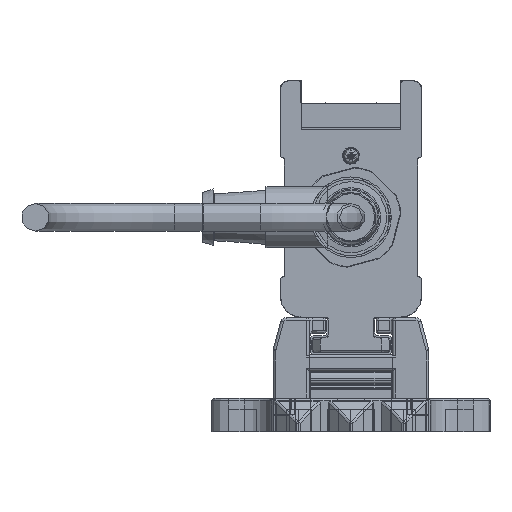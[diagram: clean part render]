
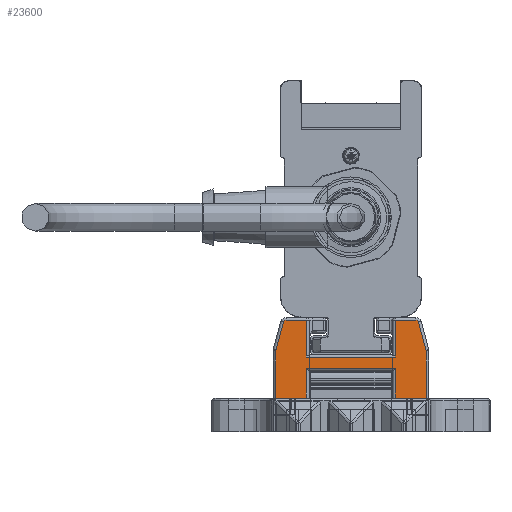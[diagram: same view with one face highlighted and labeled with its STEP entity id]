
A CAD part, left-side view. The second image highlights one B-rep face of the part: STEP entity #23600.
In plain terms, the highlighted planar face has unit normal (-1, 0, 0).
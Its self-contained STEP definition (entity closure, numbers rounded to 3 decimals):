
#23600=ADVANCED_FACE('', (#23610), #23620, .T.);
#189050=AXIS2_PLACEMENT_3D('Ax2Pl3d', #189060, #189070, #189080);
#189290=AXIS2_PLACEMENT_3D('Ax2Pl3d', #189300, #189310, #189320);
#194170=AXIS2_PLACEMENT_3D('Ax2Pl3d', #194180, #194190, #194200);
#199250=AXIS2_PLACEMENT_3D('Ax2Pl3d', #199260, #199270, #199280);
#208930=AXIS2_PLACEMENT_3D('Ax2Pl3d', #208940, #208950, #208960);
#844600=CARTESIAN_POINT('', (-747.669,-5446.345,
331.37));
#189060=CARTESIAN_POINT('HicPkt', (-747.669,-5445.379,
331.111));
#844610=CARTESIAN_POINT('', (-747.669,-5446.379,331.111)
);
#844620=CARTESIAN_POINT('', (-747.669,-5445.037,
336.255));
#844640=CARTESIAN_POINT('', (-747.669,-5445.037,
336.255));
#844670=CARTESIAN_POINT('', (-747.669,-5444.554,
336.625));
#189300=CARTESIAN_POINT('HicPkt', (-747.669,-5444.554,
336.125));
#844890=CARTESIAN_POINT('', (-747.669,-5446.379,322.625)
);
#844900=CARTESIAN_POINT('', (-747.669,-5440.881,322.625)
);
#844910=CARTESIAN_POINT('', (-747.669,-5440.881,322.625)
);
#844990=CARTESIAN_POINT('', (-747.669,-5424.881,322.625)
);
#845000=CARTESIAN_POINT('', (-747.669,-5419.383,322.625)
);
#845010=CARTESIAN_POINT('', (-747.669,-5419.383,322.625)
);
#194180=CARTESIAN_POINT('HicPkt', (-747.669,-5421.209,
336.125));
#847480=CARTESIAN_POINT('', (-747.669,-5420.726,
336.255));
#847490=CARTESIAN_POINT('', (-747.669,-5421.209,
336.625));
#847500=CARTESIAN_POINT('', (-747.669,-5440.881,
330.025));
#847510=CARTESIAN_POINT('', (-747.669,-5424.881,
330.025));
#847520=CARTESIAN_POINT('', (-747.669,-5440.881,
330.025));
#847680=CARTESIAN_POINT('', (-747.669,-5440.881,
328.005));
#847690=CARTESIAN_POINT('', (-747.669,-5424.881,
328.005));
#847700=CARTESIAN_POINT('', (-747.669,-5424.881,
328.005));
#847710=CARTESIAN_POINT('', (-747.669,-5440.881,
328.005));
#847730=CARTESIAN_POINT('', (-747.669,-5424.881,322.625)
);
#847740=CARTESIAN_POINT('', (-747.669,-5424.881,
330.025));
#847750=CARTESIAN_POINT('', (-747.669,-5424.881,
336.625));
#848600=CARTESIAN_POINT('', (-747.669,-5424.881,
336.625));
#848610=CARTESIAN_POINT('', (-747.669,-5420.726,
336.255));
#848620=CARTESIAN_POINT('', (-747.669,-5419.417,
331.37));
#848810=CARTESIAN_POINT('', (-747.669,-5419.383,331.111)
);
#848820=CARTESIAN_POINT('', (-747.669,-5419.383,331.111)
);
#199260=CARTESIAN_POINT('HicPkt', (-747.669,-5420.383,
331.111));
#849630=CARTESIAN_POINT('', (-747.669,-5446.379,331.111)
);
#208940=CARTESIAN_POINT('HicPkt', (-747.669,-5444.554,
336.625));
#851430=CARTESIAN_POINT('', (-747.669,-5440.881,
336.625));
#851440=CARTESIAN_POINT('', (-747.669,-5440.881,
336.625));
#851450=CARTESIAN_POINT('', (-747.669,-5440.881,
336.625));
#981330=CIRCLE('Circle', #189050, 1.);
#981370=CIRCLE('Circle', #189290, 0.5);
#981950=CIRCLE('Circle', #194170, 0.5);
#982480=CIRCLE('Circle', #199250, 1.);
#189070=DIRECTION('Axis', (-1.,0.,
0.));
#189080=DIRECTION('RefDirection', (0.,
0.,-1.));
#1367870=DIRECTION('', (0.,0.259,
0.966));
#189310=DIRECTION('Axis', (-1.,0.,
0.));
#189320=DIRECTION('RefDirection', (0.,
0.,-1.));
#1367980=DIRECTION('', (0.,1.,0.));
#1368020=DIRECTION('', (0.,1.,0.));
#194190=DIRECTION('Axis', (1.,0.,
0.));
#194200=DIRECTION('RefDirection', (0.,
0.,-1.));
#1369210=DIRECTION('', (0.,-1.,0.));
#1369310=DIRECTION('', (0.,1.,0.));
#1369320=DIRECTION('', (0.,0.,1.));
#1369340=DIRECTION('', (0.,0.,-1.));
#1369350=DIRECTION('', (0.,0.,-1.));
#1369780=DIRECTION('', (0.,-1.,0.))
;
#1369790=DIRECTION('', (0.,-0.259,0.966));
#1369880=DIRECTION('', (0.,0.,1.));
#199270=DIRECTION('Axis', (1.,0.,
0.));
#199280=DIRECTION('RefDirection', (0.,
0.,-1.));
#1370250=DIRECTION('', (0.,0.,1.));
#208950=DIRECTION('Axis', (-1.,0.,
0.));
#208960=DIRECTION('RefDirection', (0.,
0.,-1.));
#1371090=DIRECTION('', (0.,1.,0.));
#1371100=DIRECTION('', (0.,0.,1.));
#1456860=EDGE_CURVE('', #1456870, #1456850, #981330, .T.);
#1456920=EDGE_CURVE('', #1456850, #1456900, #1456930, .T.);
#1456990=EDGE_CURVE('', #1456900, #1456980, #981370, .T.);
#1457440=EDGE_CURVE('', #1457430, #1457450, #1457460, .T.);
#1457600=EDGE_CURVE('', #1457590, #1457610, #1457620, .T.);
#1461960=EDGE_CURVE('', #1461970, #1461980, #981950, .T.);
#1462010=EDGE_CURVE('', #1462020, #1462030, #1462040, .T.);
#1462380=EDGE_CURVE('', #1462360, #1462390, #1462400, .T.);
#1462430=EDGE_CURVE('', #1457450, #1462360, #1462440, .T.);
#1462470=EDGE_CURVE('', #1462390, #1457590, #1462480, .T.);
#1462490=EDGE_CURVE('', #1462500, #1462020, #1462510, .T.);
#1464330=EDGE_CURVE('', #1461980, #1462500, #1464340, .T.);
#1464400=EDGE_CURVE('', #1464410, #1461970, #1464420, .T.);
#1464840=EDGE_CURVE('', #1457610, #1464850, #1464860, .T.);
#1464880=EDGE_CURVE('', #1464850, #1464410, #982480, .T.);
#1466590=EDGE_CURVE('', #1457430, #1456870, #1466600, .T.);
#1470400=EDGE_CURVE('', #1456980, #1470410, #1470420, .T.);
#1470430=EDGE_CURVE('', #1462030, #1470410, #1470440, .T.);
#1750440=EDGE_LOOP('Edge_loop', (#1750450,#1750460,#1750470,#1750480,
#1750490,#1750500,#1750510,#1750520,#1750530,#1750540,#1750550,
#1750560,#1750570,#1750580,#1750590,#1750600,#1750610,#1750620));
#23610=FACE_OUTER_BOUND('Face_outer_bound', #1750440, .T.);
#1456930=LINE('Line', #844640, #2017940);
#1457460=LINE('Line', #844900, #2018050);
#1457620=LINE('Line', #845000, #2018090);
#1462040=LINE('Line', #847500, #2019280);
#1462400=LINE('Line', #847690, #2019380);
#1462440=LINE('Line', #847710, #2019390);
#1462480=LINE('Line', #847730, #2019410);
#1462510=LINE('Line', #847740, #2019420);
#1464340=LINE('Line', #848600, #2019850);
#1464420=LINE('Line', #848610, #2019860);
#1464860=LINE('Line', #848810, #2019950);
#1466600=LINE('Line', #849630, #2020320);
#1470420=LINE('Line', #851430, #2021160);
#1470440=LINE('Line', #851450, #2021170);
#1750450=ORIENTED_EDGE('', *, *, #1470400, .T.);
#1750460=ORIENTED_EDGE('', *, *, #1470430, .F.);
#1750470=ORIENTED_EDGE('', *, *, #1462010, .F.);
#1750480=ORIENTED_EDGE('', *, *, #1462490, .F.);
#1750490=ORIENTED_EDGE('', *, *, #1464330, .F.);
#1750500=ORIENTED_EDGE('', *, *, #1461960, .F.);
#1750510=ORIENTED_EDGE('', *, *, #1464400, .F.);
#1750520=ORIENTED_EDGE('', *, *, #1464880, .F.);
#1750530=ORIENTED_EDGE('', *, *, #1464840, .F.);
#1750540=ORIENTED_EDGE('', *, *, #1457600, .F.);
#1750550=ORIENTED_EDGE('', *, *, #1462470, .F.);
#1750560=ORIENTED_EDGE('', *, *, #1462380, .F.);
#1750570=ORIENTED_EDGE('', *, *, #1462430, .F.);
#1750580=ORIENTED_EDGE('', *, *, #1457440, .F.);
#1750590=ORIENTED_EDGE('', *, *, #1466590, .T.);
#1750600=ORIENTED_EDGE('', *, *, #1456860, .T.);
#1750610=ORIENTED_EDGE('', *, *, #1456920, .T.);
#1750620=ORIENTED_EDGE('', *, *, #1456990, .T.);
#23620=PLANE('Plane', #208930);
#2017940=VECTOR('', #1367870, 5.057);
#2018050=VECTOR('', #1367980, 5.498);
#2018090=VECTOR('', #1368020, 5.498);
#2019280=VECTOR('', #1369210, 16.);
#2019380=VECTOR('', #1369310, 16.);
#2019390=VECTOR('', #1369320, 5.38);
#2019410=VECTOR('', #1369340, 5.38);
#2019420=VECTOR('', #1369350, 6.6);
#2019850=VECTOR('', #1369780, 3.672);
#2019860=VECTOR('', #1369790, 5.057);
#2019950=VECTOR('', #1369880, 8.486);
#2020320=VECTOR('', #1370250, 8.486);
#2021160=VECTOR('', #1371090, 3.672);
#2021170=VECTOR('', #1371100, 6.6);
#1456850=VERTEX_POINT('', #844600);
#1456870=VERTEX_POINT('', #844610);
#1456900=VERTEX_POINT('', #844620);
#1456980=VERTEX_POINT('', #844670);
#1457430=VERTEX_POINT('', #844890);
#1457450=VERTEX_POINT('', #844910);
#1457590=VERTEX_POINT('', #844990);
#1457610=VERTEX_POINT('', #845010);
#1461970=VERTEX_POINT('', #847480);
#1461980=VERTEX_POINT('', #847490);
#1462020=VERTEX_POINT('', #847510);
#1462030=VERTEX_POINT('', #847520);
#1462360=VERTEX_POINT('', #847680);
#1462390=VERTEX_POINT('', #847700);
#1462500=VERTEX_POINT('', #847750);
#1464410=VERTEX_POINT('', #848620);
#1464850=VERTEX_POINT('', #848820);
#1470410=VERTEX_POINT('', #851440);
